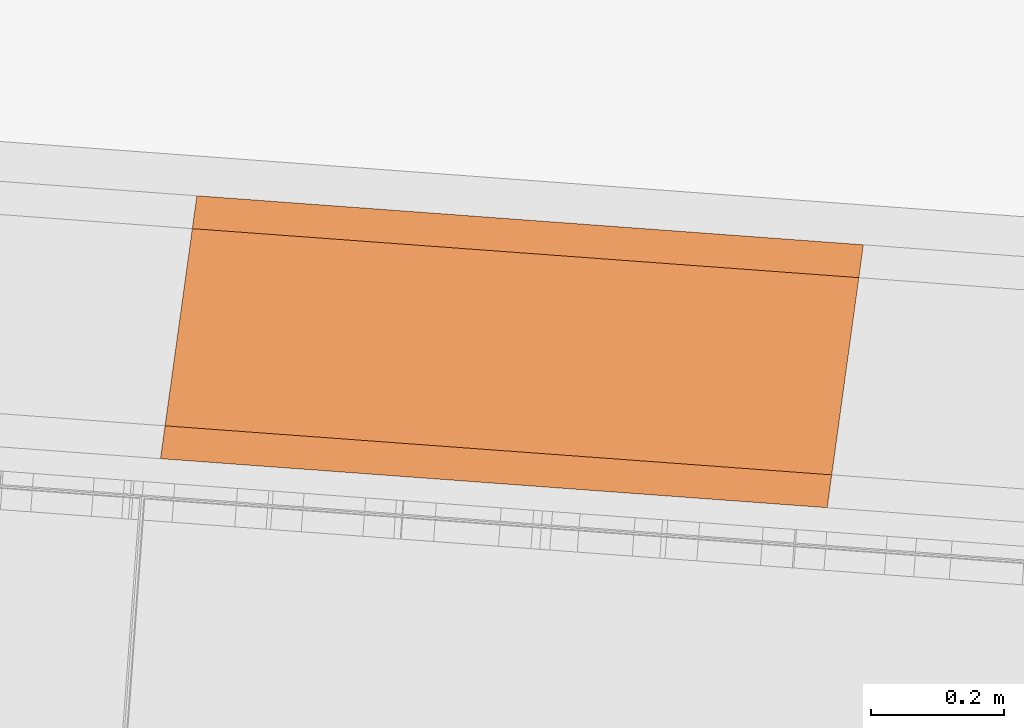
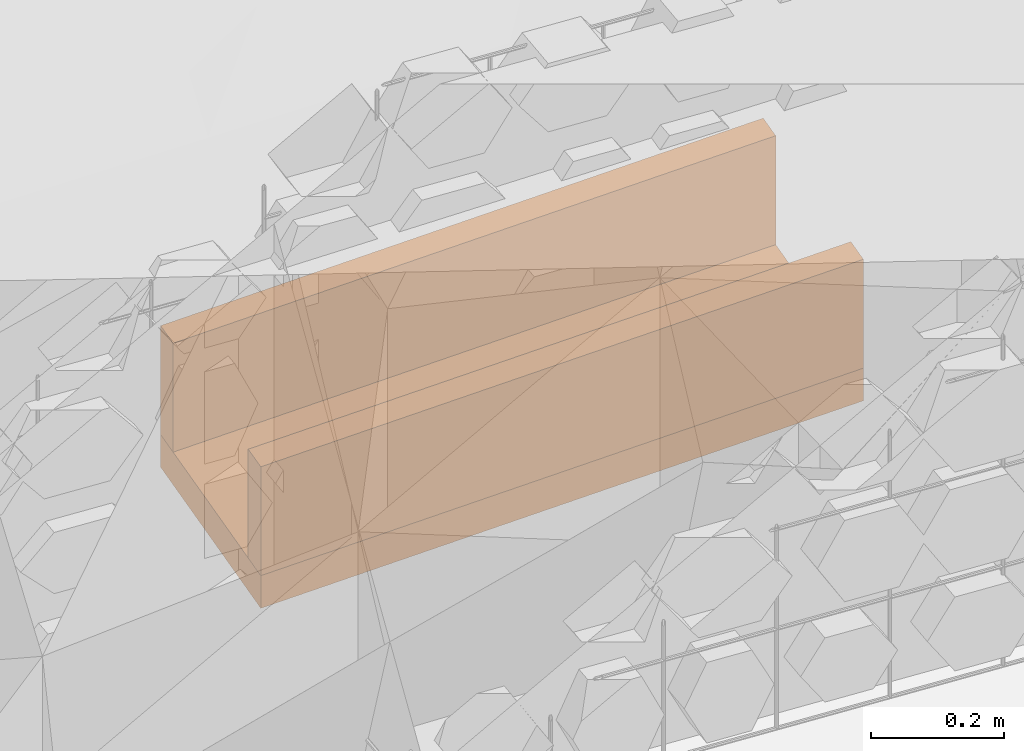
# Not in any storey, part 23 of 46: 3 proxies.
"""IFC4 model written with IfcOpenShell, lengths in metres."""

import ifcopenshell
import ifcopenshell.guid

model = None  # the IFC model being written
_history = None  # IfcOwnerHistory: only IFC2X3 demands one
_inside = {}  # id of a spatial element -> (the spatial element, [elements in it])
_under = {}  # id of a project, library or spatial element -> (it, [spatial elements below it])
_declared = {}  # id of a project -> (the project, [libraries it declares])
_typed = {}  # id of a type object -> (the type object, [elements of that type])
_made_of = {}  # id of a material, layer set ... -> (it, [elements and type objects made of it])


def new_model(schema):
    """Start an empty IFC model of exactly this schema.

    Asked for "IFC4X3", IfcOpenShell would pick the latest addendum, in which some entities
    have other attributes; the version numbers below select the first issue.
    IFC2X3 requires an IfcOwnerHistory on every rooted entity: one is made here for all.
    """
    global model, _history
    if schema == "IFC4X3":
        model = ifcopenshell.file(schema_version=(4, 3, 0, 0))
    else:
        model = ifcopenshell.file(schema=schema)
    _inside.clear()
    _under.clear()
    _declared.clear()
    _typed.clear()
    _made_of.clear()
    _history = None
    if model.schema == "IFC2X3":
        org = make("IfcOrganization", Name="unknown")
        user = make(
            "IfcPersonAndOrganization",
            ThePerson=make("IfcPerson", FamilyName="unknown"),
            TheOrganization=org,
        )
        app = make(
            "IfcApplication",
            ApplicationDeveloper=org,
            Version="unknown",
            ApplicationFullName="unknown",
            ApplicationIdentifier="unknown",
        )
        _history = make(
            "IfcOwnerHistory",
            OwningUser=user,
            OwningApplication=app,
            ChangeAction="ADDED",
            CreationDate=0,
        )
    return model


def make(cls, **values):
    """One entity of the class cls with the attributes given. An attribute that is None is left unset."""
    return model.create_entity(
        cls, **{name: value for name, value in values.items() if value is not None}
    )


def rooted(cls, **values):
    """An entity with a GlobalId (a new one), such as an element, a storey or a relation."""
    return make(cls, GlobalId=ifcopenshell.guid.new(), OwnerHistory=_history, **values)


def si_unit(unit_type, name, prefix=None):
    """IfcSIUnit, for example si_unit("LENGTHUNIT", "METRE", prefix="MILLI")."""
    return make("IfcSIUnit", UnitType=unit_type, Prefix=prefix, Name=name)


def assignment(units):
    """IfcUnitAssignment: the units of a project."""
    return None if units is None else make("IfcUnitAssignment", Units=units)


def point(xyz):
    """IfcCartesianPoint."""
    return None if xyz is None else make("IfcCartesianPoint", Coordinates=xyz)


def direction(xyz):
    """IfcDirection."""
    return None if xyz is None else make("IfcDirection", DirectionRatios=xyz)


def frame(location, z_axis=None, x_axis=None):
    """IfcAxis2Placement3D, a coordinate frame: its origin and axes. An axis left out is left unset."""
    return make(
        "IfcAxis2Placement3D",
        Location=point(location),
        Axis=direction(z_axis),
        RefDirection=direction(x_axis),
    )


def origin_with_axes():
    """The frame at (0, 0, 0) with the z axis (0, 0, 1) and the x axis (1, 0, 0) written out."""
    return frame((0.0, 0.0, 0.0), z_axis=(0.0, 0.0, 1.0), x_axis=(1.0, 0.0, 0.0))


def place(relative_to, where):
    """IfcLocalPlacement: puts the frame where relative to a parent placement (None: the world)."""
    return make(
        "IfcLocalPlacement", PlacementRelTo=relative_to, RelativePlacement=where
    )


def context(
    kind, dimensions, precision=None, world=None, true_north=None, identifier=None
):
    """IfcGeometricRepresentationContext, for example the 3D "Model" context."""
    return make(
        "IfcGeometricRepresentationContext",
        ContextIdentifier=identifier,
        ContextType=kind,
        CoordinateSpaceDimension=dimensions,
        Precision=precision,
        WorldCoordinateSystem=world,
        TrueNorth=true_north,
    )


def subcontext(parent, identifier, kind, view, scale=None):
    """IfcGeometricRepresentationSubContext, for example "Body" below "Model"."""
    return make(
        "IfcGeometricRepresentationSubContext",
        ContextIdentifier=identifier,
        ContextType=kind,
        ParentContext=parent,
        TargetScale=scale,
        TargetView=view,
    )


def project(units=None, contexts=None):
    """IfcProject with its units and contexts."""
    return rooted(
        "IfcProject",
        Name="project",
        RepresentationContexts=contexts,
        UnitsInContext=assignment(units),
    )


def spatial(cls, under=None, at=None, **own):
    """A site, building, storey or space (cls), placed at a placement, below another one or the project."""
    s = rooted(cls, ObjectPlacement=at, **own)
    if under is not None:
        _under.setdefault(under.id(), (under, []))[1].append(s)
    return s


def point_list(points):
    """IfcCartesianPointList2D or 3D."""
    cls = (
        "IfcCartesianPointList2D" if len(points[0]) == 2 else "IfcCartesianPointList3D"
    )
    return make(cls, CoordList=points)


def polygons(points, faces, closed=None, point_numbers=None):
    """IfcPolygonalFaceSet: a face is its outer loop, then its inner loops; points numbered from 1."""
    made = []
    for loops in faces:
        if len(loops) == 1:
            made.append(make("IfcIndexedPolygonalFace", CoordIndex=loops[0]))
        else:
            made.append(
                make(
                    "IfcIndexedPolygonalFaceWithVoids",
                    CoordIndex=loops[0],
                    InnerCoordIndices=loops[1:],
                )
            )
    return make(
        "IfcPolygonalFaceSet",
        Coordinates=point_list(points),
        Closed=closed,
        Faces=made,
        PnIndex=point_numbers,
    )


def shape(context_of_items, identifier, shape_type, items):
    """IfcShapeRepresentation: the items that make up one representation, for example the "Body"."""
    return make(
        "IfcShapeRepresentation",
        ContextOfItems=context_of_items,
        RepresentationIdentifier=identifier,
        RepresentationType=shape_type,
        Items=items,
    )


def material(Name=None, Category=None):
    """IfcMaterial."""
    return make("IfcMaterial", Name=Name, Category=Category)


def made_of(thing, what):
    """Note that an element or type object is made of a material, layer set ...; save() writes the relation."""
    if what is not None:
        _made_of.setdefault(what.id(), (what, []))[1].append(thing)
    return thing


def element(
    cls,
    number,
    at=None,
    inside=None,
    cuts=None,
    type_object=None,
    material=None,
    context=None,
    identifier="Body",
    shape_type=None,
    held_by="IfcProductDefinitionShape",
    body=None,
    shapes=None,
    **own,
):
    """One element of the class cls, such as IfcWall. Its Tag is "e" and its number.

    at: its placement. inside: the storey or other place that contains it. cuts: it is an
    opening in that element (IfcRelVoidsElement). A single representation is given by context,
    identifier, shape_type and body (its items); several are given by shapes. held_by: the class
    of the entity that holds the representations. save() writes the other relations.
    """
    e = rooted(cls, Tag="e%d" % number, ObjectPlacement=at, **own)
    if body is not None:
        shapes = [shape(context, identifier, shape_type, body)]
    if shapes is not None:
        e.Representation = make(held_by, Representations=shapes)
    if inside is not None:
        _inside.setdefault(inside.id(), (inside, []))[1].append(e)
    if cuts is not None:
        rooted(
            "IfcRelVoidsElement", RelatingBuildingElement=cuts, RelatedOpeningElement=e
        )
    if type_object is not None:
        _typed.setdefault(type_object.id(), (type_object, []))[1].append(e)
    return made_of(e, material)


def aggregate(whole, parts):
    """IfcRelAggregates: a whole, such as a stair, and the parts it consists of."""
    return rooted("IfcRelAggregates", RelatingObject=whole, RelatedObjects=parts)


def save(model, path):
    """Write the relations noted so far, then the file.

    IfcRelAggregates (storeys below a building ...), IfcRelContainedInSpatialStructure (elements
    in a storey), IfcRelDefinesByType, IfcRelAssociatesMaterial and IfcRelDeclares: one each for
    every whole, place, type object, material and project.
    """
    for whole, parts in _under.values():
        aggregate(whole, parts)
    for where, things in _inside.values():
        rooted(
            "IfcRelContainedInSpatialStructure",
            RelatedElements=things,
            RelatingStructure=where,
        )
    for kind, things in _typed.values():
        rooted("IfcRelDefinesByType", RelatedObjects=things, RelatingType=kind)
    for what, things in _made_of.values():
        rooted("IfcRelAssociatesMaterial", RelatedObjects=things, RelatingMaterial=what)
    for by, libraries in _declared.values():
        rooted("IfcRelDeclares", RelatingContext=by, RelatedDefinitions=libraries)
    model.write(path)


model = new_model("IFC4")

# Units and contexts
model_context = context("Model", 3, precision=1e-05, world=origin_with_axes(), true_north=direction((0.0, 1.0)))
body_context = subcontext(model_context, "Body", "Model", "MODEL_VIEW")
ifc_project = project(units=[si_unit("VOLUMEUNIT", "CUBIC_METRE"), si_unit("LENGTHUNIT", "METRE"), si_unit("AREAUNIT", "SQUARE_METRE")], contexts=[model_context])

# Site
site_placement = place(None, origin_with_axes())
site = spatial("IfcSite", under=ifc_project, at=site_placement, Name="Lares · Rua das Mercês · artigo 4771")

# Proxies
ifc_material = material(Name="Caleiras · betão", Category="concrete")
proxy_1_placement = place(site_placement, frame((0.0, 0.0, 0.0), z_axis=(0.0, 0.0, 1.0), x_axis=(1.0, -1.03767253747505e-17, 0.0)))
element("IfcBuildingElementProxy", 1, at=proxy_1_placement, inside=site, material=ifc_material, Name="Acesso · canal lateral", ObjectType="Acesso · canal lateral", PredefinedType="USERDEFINED", context=body_context, shape_type="Tessellation", body=[
    polygons([(55.6128257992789, 2.08223214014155, 13.8578321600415), (55.6675038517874, 2.47847740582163, 13.8578321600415), (56.6721545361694, 2.40459935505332, 13.9322902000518), (56.6174764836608, 2.00835408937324, 13.9322902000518), (55.6128257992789, 2.08223214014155, 13.9178321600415), (55.6675038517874, 2.47847740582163, 13.9178321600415), (56.6721545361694, 2.40459935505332, 13.9922902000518), (56.6174764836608, 2.00835408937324, 13.9922902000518)], [[[4, 3, 2, 1]], [[5, 6, 7, 8]], [[1, 2, 6, 5]], [[2, 3, 7, 6]], [[3, 4, 8, 7]], [[4, 1, 5, 8]]]),
])
proxy_2_placement = place(site_placement, frame((0.0, 0.0, 0.0), z_axis=(0.0, 0.0, 1.0), x_axis=(1.0, -1.03767253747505e-17, 0.0)))
element("IfcBuildingElementProxy", 2, at=proxy_2_placement, inside=site, material=ifc_material, Name="Acesso · canal lateral", ObjectType="Acesso · canal lateral", PredefinedType="USERDEFINED", context=body_context, shape_type="Tessellation", body=[
    polygons([(55.6128257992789, 2.08223214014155, 13.9178321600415), (55.6196605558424, 2.13176279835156, 13.9178321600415), (56.6243112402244, 2.05788474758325, 13.9922902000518), (56.6174764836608, 2.00835408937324, 13.9922902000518), (55.6128257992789, 2.08223214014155, 14.1178321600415), (55.6196605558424, 2.13176279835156, 14.1178321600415), (56.6243112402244, 2.05788474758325, 14.1922902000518), (56.6174764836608, 2.00835408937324, 14.1922902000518)], [[[4, 3, 2, 1]], [[5, 6, 7, 8]], [[1, 2, 6, 5]], [[2, 3, 7, 6]], [[3, 4, 8, 7]], [[4, 1, 5, 8]]]),
])
proxy_3_placement = place(site_placement, frame((0.0, 0.0, 0.0), z_axis=(0.0, 0.0, 1.0), x_axis=(1.0, -1.03767253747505e-17, 0.0)))
element("IfcBuildingElementProxy", 3, at=proxy_3_placement, inside=site, material=ifc_material, Name="Acesso · canal lateral", ObjectType="Acesso · canal lateral", PredefinedType="USERDEFINED", context=body_context, shape_type="Tessellation", body=[
    polygons([(55.6606690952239, 2.42894674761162, 13.9178321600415), (55.6675038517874, 2.47847740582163, 13.9178321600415), (56.6721545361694, 2.40459935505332, 13.9922902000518), (56.6653197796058, 2.35506869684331, 13.9922902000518), (55.6606690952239, 2.42894674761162, 14.1178321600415), (55.6675038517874, 2.47847740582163, 14.1178321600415), (56.6721545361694, 2.40459935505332, 14.1922902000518), (56.6653197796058, 2.35506869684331, 14.1922902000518)], [[[4, 3, 2, 1]], [[5, 6, 7, 8]], [[1, 2, 6, 5]], [[2, 3, 7, 6]], [[3, 4, 8, 7]], [[4, 1, 5, 8]]]),
])

save(model, "model.ifc")
